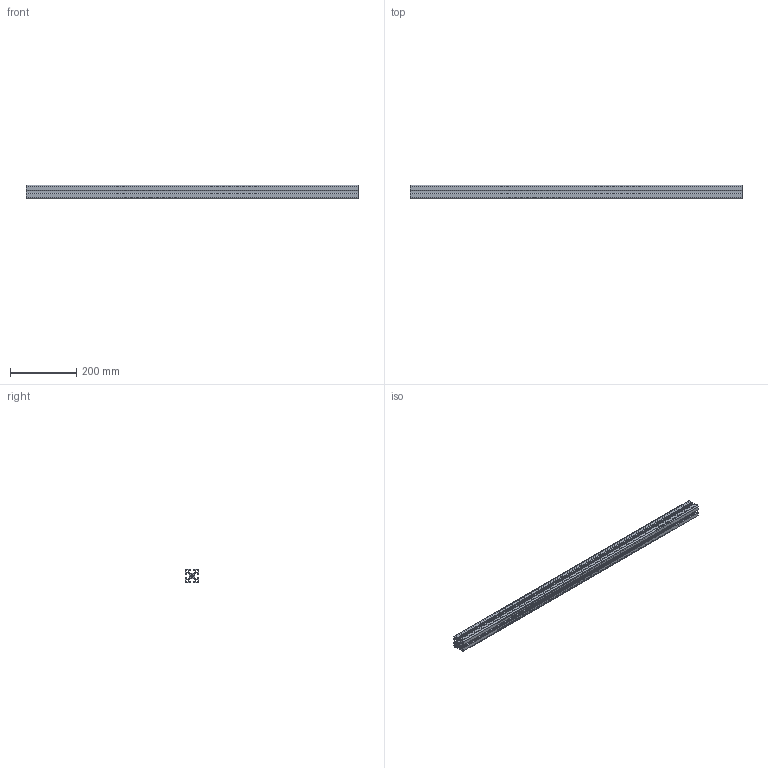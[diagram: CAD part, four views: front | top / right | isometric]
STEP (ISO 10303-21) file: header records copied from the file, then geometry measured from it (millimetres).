
FILE_DESCRIPTION (( 'STEP AP214' ), '1' );
FILE_NAME ('10397_PRO_8_40x40_L.STEP', '2016-02-29T13:21:03', ( '' ), ( '' ), 'SwSTEP 2.0', 'SolidWorks 2015', '' );
FILE_SCHEMA (( 'AUTOMOTIVE_DESIGN' ));
Length unit declared in the file: millimetre
Products named in the file (1): 10397_PRO_8_40x40_L
Bounding box: 1000 x 40 x 40 mm (x, y, z)
Volume: 656956.6 mm3; surface area: 461636.9 mm2
Topology: 1 solids, 1 shells, 156 faces, 462 edges, 308 vertices
Faces by surface type: cylinder 78, plane 78
Entity records: 5316 total; most frequent: DIRECTION 932, CARTESIAN_POINT 927, ORIENTED_EDGE 924, EDGE_CURVE 462, AXIS2_PLACEMENT_3D 313, VERTEX_POINT 308, VECTOR 306, LINE 306
